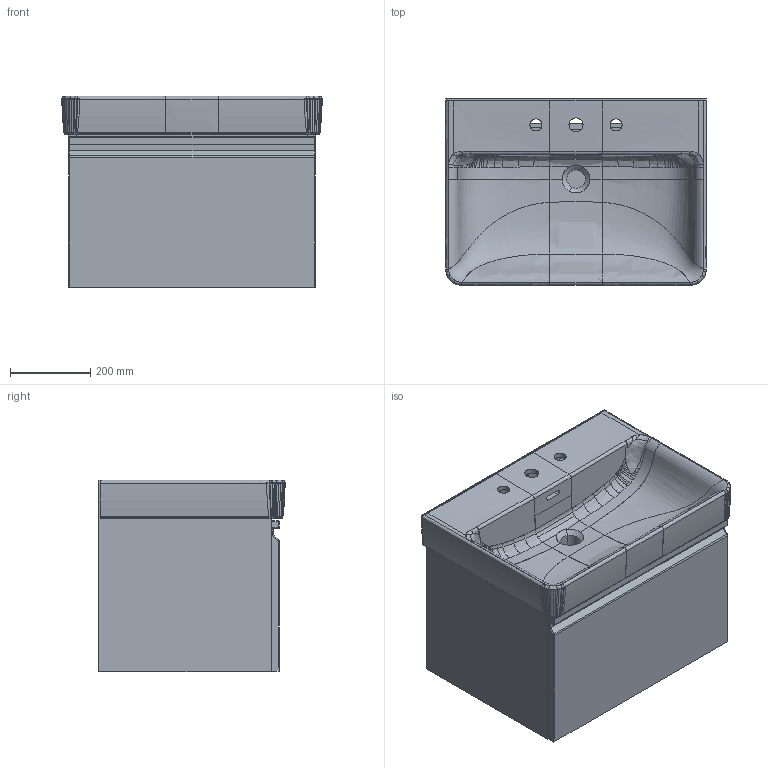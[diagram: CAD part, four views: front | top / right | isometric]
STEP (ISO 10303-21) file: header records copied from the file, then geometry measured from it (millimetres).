
FILE_DESCRIPTION(/* description */ (''),/* implementation_level */ '2;1');
FILE_NAME(/* name */ 'C:\Users\User33\Desktop\Pro S\3D01_483422.stp',/* time_stamp */ '2018-05-10T12:01:13+02:00',/* author */ ('User33'),/* organization */ (''),/* preprocessor_version */ 'ST-DEVELOPER v16.13',/* originating_system */ 'Autodesk Inventor 2018',/* authorisation */ '');
FILE_SCHEMA (('AUTOMOTIVE_DESIGN { 1 0 10303 214 3 1 1 }'));
Products named in the file (29): Assieme1; Parte1; Parte3; Parte5; Parte15; Parte17; Parte19; Parte21; Parte23; Parte25; Parte27; Parte29; Parte31; Parte33; Parte35; Parte37; Parte39; Parte41; Parte51; Parte53; Parte55; Parte57; Parte59; Parte61; Parte63; Parte65; Parte67; Parte69; Parte71
Assembly tree (28 placements, depth 2):
  Assieme1
    Parte1
    Parte3
    Parte5
    Parte15
    Parte17
    Parte19
    Parte21
    Parte23
    Parte25
    Parte27
    Parte29
    Parte31
    Parte33
    Parte35
    Parte37
    Parte39
    Parte41
    Parte51
    Parte53
    Parte55
    Parte57
    Parte59
    Parte61
    Parte63
    Parte65
    Parte67
    Parte69
    Parte71
Bounding box: 649.94 x 464.97 x 478 mm (x, y, z)
Volume: 25675628.4 mm3; surface area: 4698336.9 mm2
Topology: 27 solids, 904 shells, 1688 faces, 6838 edges, 6117 vertices
Faces by surface type: bspline 745, plane 701, cylinder 206, cone 23, sphere 8, torus 5
Full cylindrical faces by diameter (mm): 2.5 x2, 4 x16, 4.1 x4, 5.1 x4, 6 x12, 7.2 x2, 10 x2, 12 x2, 12.5 x2
Entity records: 242163 total; most frequent: CARTESIAN_POINT 190621, ORIENTED_EDGE 8862, DIRECTION 7486, EDGE_CURVE 6785, VERTEX_POINT 6116, AXIS2_PLACEMENT_3D 2674, B_SPLINE_CURVE_WITH_KNOTS 2438, LINE 2138
